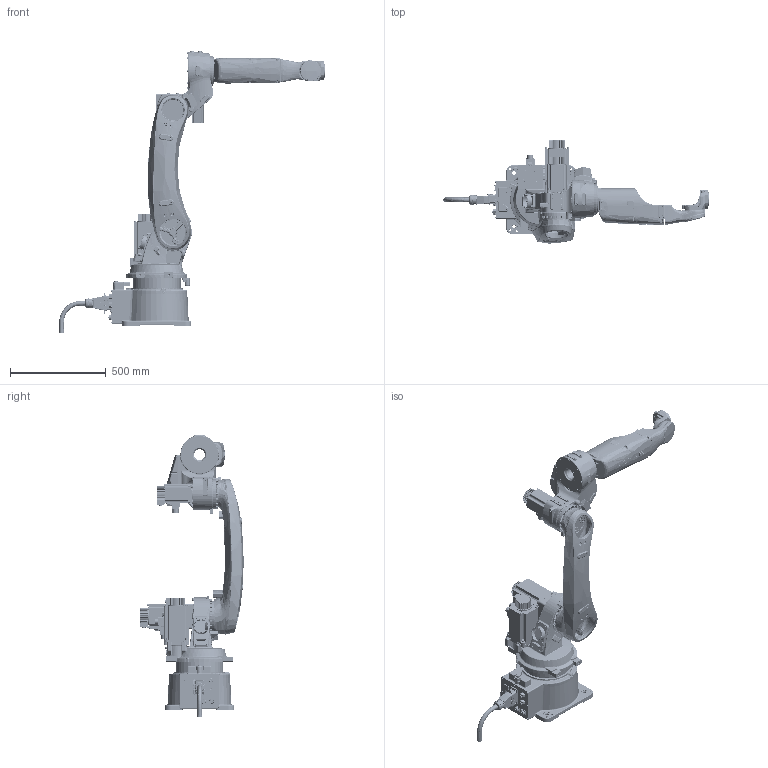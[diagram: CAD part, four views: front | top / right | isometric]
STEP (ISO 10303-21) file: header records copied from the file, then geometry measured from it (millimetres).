
FILE_DESCRIPTION(/* description */ (''),/* implementation_level */ '2;1');
FILE_NAME(/* name */ 'NB12h-1214 简化模型.stp',/* time_stamp */ '2025-12-12T09:44:23+08:00',/* author */ (''),/* organization */ (''),/* preprocessor_version */ 'ST-DEVELOPER v16',/* originating_system */ 'SIEMENS PLM Software NX 10.0',/* authorisation */ '');
FILE_SCHEMA (('CONFIG_CONTROL_DESIGN'));
Length unit declared in the file: millimetre
Products named in the file (10): NB12h-logo; NB12h-3Dwork-A; NB12h-yao-A; NB12h-xiaobihou-A; NB12h-shuchu-A; NB12h-shouwan-A; NB12h-dabi-A; NB12h-base-A; NB12h-xiaobiqian-A_MODEL; NB12h-1214
Assembly tree (9 placements, depth 3):
  NB12h-1214
    NB12h-base-A
    NB12h-dabi-A
    NB12h-shouwan-A
    NB12h-shuchu-A
    NB12h-xiaobihou-A
    NB12h-xiaobiqian-A_MODEL
      NB12h-logo
    NB12h-yao-A
    NB12h-3Dwork-A
Bounding box: 1390.83 x 540.69 x 1476.66 mm (x, y, z)
Volume: 65348282.6 mm3; surface area: 3156485.3 mm2
Topology: 15 solids, 22 shells, 9207 faces, 22994 edges, 13890 vertices
Faces by surface type: plane 2891, cylinder 2742, bspline 1930, cone 610, torus 526, sphere 353, extrusion 155
Full cylindrical faces by diameter (mm): 3.3 x11, 3.838 x1, 4 x2, 4.2 x10, 4.5 x1, 4.75 x4, 5.1 x4, 5.13 x8, 5.5 x19, 6 x1, 6.725 x4, 6.8 x8, 7 x26, 7.2 x6, 7.5 x8, 7.782 x1, 8 x8, 8.5 x11, 9 x1, 10 x60, 10.3 x9, 13 x58, 13.8 x1, 14 x4, 15.2 x3, 16 x6, 17 x5, 18 x5, 25 x2, 32 x1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
Entity records: 381109 total; most frequent: CARTESIAN_POINT 183421, ORIENTED_EDGE 43462, DIRECTION 37035, EDGE_CURVE 21731, AXIS2_PLACEMENT_3D 14752, VERTEX_POINT 13581, EDGE_LOOP 10268, ADVANCED_FACE 9207
